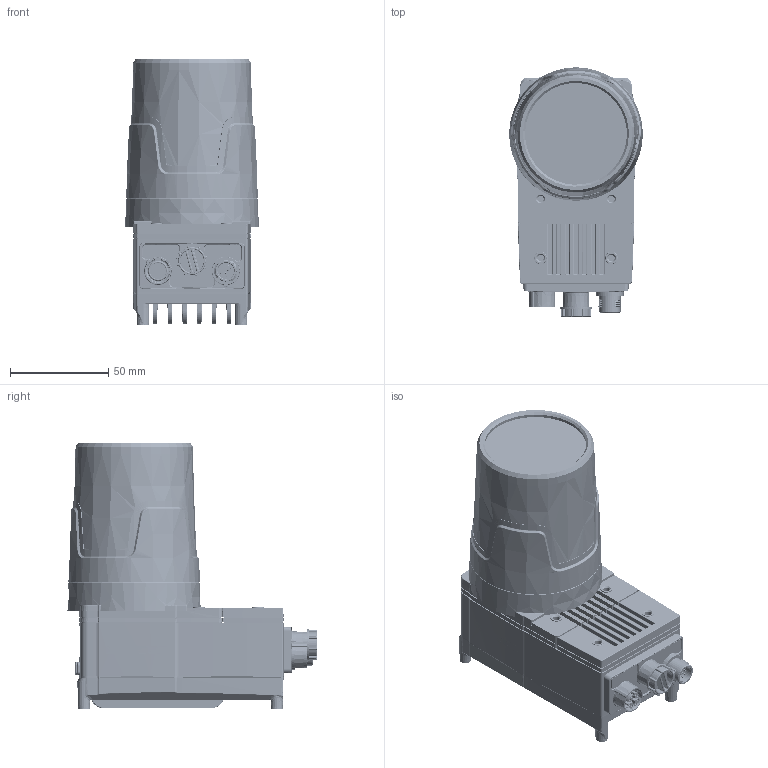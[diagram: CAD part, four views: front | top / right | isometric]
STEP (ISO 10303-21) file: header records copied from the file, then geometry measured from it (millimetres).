
FILE_DESCRIPTION (( 'STEP AP214' ), '1' );
FILE_NAME ('IS016-16_11-20-18.STEP', '2018-11-21T19:03:10', ( '' ), ( '' ), 'SwSTEP 2.0', 'SolidWorks 2018', '' );
FILE_SCHEMA (( 'AUTOMOTIVE_DESIGN' ));
Length unit declared in the file: millimetre
Products named in the file (1): IS016-16_11-20-18
Bounding box: 68.03 x 126.87 x 135.7 mm (x, y, z)
Volume: 311125.1 mm3; surface area: 120048 mm2
Topology: 7 solids, 88 shells, 6444 faces, 16825 edges, 10731 vertices
Faces by surface type: plane 2299, cylinder 1752, bspline 1324, cone 714, torus 283, sphere 72
Entity records: 344806 total; most frequent: CARTESIAN_POINT 145781, ORIENTED_EDGE 33442, DIRECTION 27406, EDGE_CURVE 16721, VERTEX_POINT 10727, AXIS2_PLACEMENT_3D 9979, VECTOR 7448, LINE 7448
